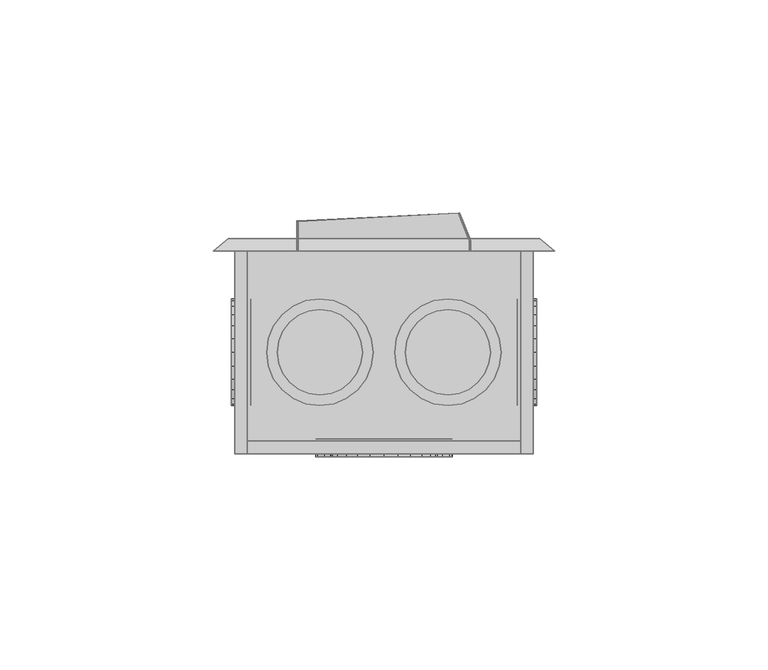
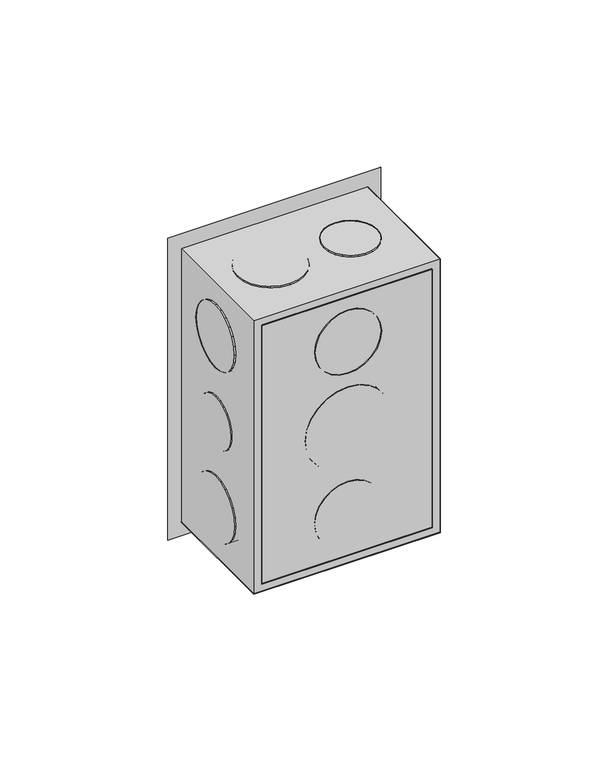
"""IFC4 building model written with IfcOpenShell, lengths in millimetres: proxy geometry,  210267 :  210267."""

from ifc_helpers import new_model, si_unit, origin, place, context, project, spatial, triangles, source, transform, mapped, element, save


def generic_models_a4ac1c25(model_context):
    return source(origin(), model_context, "Body", "Tessellation", [
        triangles([(5489.7497955, 15395.8997864, 1254.3000378), (5492.7501938, 15395.8997864, 1148.7000154), (5489.7497955, 15395.8997864, 1145.6999805), (5492.7501938, 15395.8997864, 1251.2999302), (5559.750174, 15395.8997864, 1254.3000378), (5556.7497757, 15395.8997864, 1251.2999302), (5559.750174, 15395.8997864, 1145.6999805), (5556.7497757, 15395.8997864, 1148.7000154), (5492.7501938, 15348.4003601, 1251.2999302), (5492.7501938, 15348.4003601, 1148.7000154), (5559.750174, 15348.4003601, 1254.3000378), (5559.750174, 15348.4003601, 1145.6999805), (5556.7497757, 15348.4003601, 1251.2999302), (5489.7497955, 15348.4003601, 1145.6999805), (5556.7497757, 15348.4003601, 1148.7000154), (5489.7497955, 15348.4003601, 1254.3000378), (5492.7501938, 15351.400177, 1251.2999302), (5556.7497757, 15351.400177, 1148.7000154), (5492.7501938, 15351.400177, 1148.7000154), (5556.7497757, 15351.400177, 1251.2999302), (5516.7498917, 15347.7004028, 1186.0999855), (5510.8502518, 15347.7004028, 1191.9999887), (5513.4500931, 15347.7004028, 1188.6999722), (5520.5502411, 15347.7004028, 1184.5000105), (5509.2497681, 15347.7004028, 1195.8999687), (5524.7499847, 15347.7004028, 1183.9999683), (5508.7497986, 15347.7004028, 1200.0000092), (5528.8497345, 15347.7004028, 1184.5000105), (5509.2497681, 15347.7004028, 1204.0999769), (5532.7500778, 15347.7004028, 1186.0999855), (5510.8502518, 15347.7004028, 1208.0000296), (5536.0498764, 15347.7004028, 1188.6999722), (5513.4500931, 15347.7004028, 1211.2999735), (5538.5497238, 15347.7004028, 1191.9999887), (5516.7498917, 15347.7004028, 1213.9000328), (5540.1502075, 15347.7004028, 1195.8999687), (5520.5502411, 15347.7004028, 1215.5000078), (5540.7501709, 15347.7004028, 1200.0000092), (5524.7499847, 15347.7004028, 1215.9999773), (5540.1502075, 15347.7004028, 1204.0999769), (5528.8497345, 15347.7004028, 1215.5000078), (5538.5497238, 15347.7004028, 1208.0000296), (5532.7500778, 15347.7004028, 1213.9000328), (5536.0498764, 15347.7004028, 1211.2999735), (5520.5502411, 15351.9001465, 1215.5000078), (5524.7499847, 15351.9001465, 1215.9999773), (5516.7498917, 15351.9001465, 1213.9000328), (5513.4500931, 15351.9001465, 1211.2999735), (5510.8502518, 15351.9001465, 1208.0000296), (5509.2497681, 15351.9001465, 1204.0999769), (5508.7497986, 15351.9001465, 1200.0000092), (5509.2497681, 15351.9001465, 1195.8999687), (5510.8502518, 15351.9001465, 1191.9999887), (5513.4500931, 15351.9001465, 1188.6999722), (5516.7498917, 15351.9001465, 1186.0999855), (5520.5502411, 15351.9001465, 1184.5000105), (5524.7499847, 15351.9001465, 1183.9999683), (5528.8497345, 15351.9001465, 1184.5000105), (5532.7500778, 15351.9001465, 1186.0999855), (5536.0498764, 15351.9001465, 1188.6999722), (5538.5497238, 15351.9001465, 1191.9999887), (5540.1502075, 15351.9001465, 1195.8999687), (5540.7501709, 15351.9001465, 1200.0000092), (5540.1502075, 15351.9001465, 1204.0999769), (5538.5497238, 15351.9001465, 1208.0000296), (5536.0498764, 15351.9001465, 1211.2999735), (5532.7500778, 15351.9001465, 1213.9000328), (5528.8497345, 15351.9001465, 1215.5000078), (5513.8500687, 15351.9001465, 1227.8000565), (5518.4497879, 15351.9001465, 1223.2000465), (5515.8499466, 15351.9001465, 1225.2000698), (5512.6501419, 15351.9001465, 1230.8000187), (5521.4501862, 15351.9001465, 1221.8999805), (5512.2501663, 15351.9001465, 1233.9999687), (5524.7499847, 15351.9001465, 1221.500005), (5512.6501419, 15351.9001465, 1237.2000641), (5527.9497894, 15351.9001465, 1221.8999805), (5513.8500687, 15351.9001465, 1240.3000202), (5530.9501877, 15351.9001465, 1223.2000465), (5515.8499466, 15351.9001465, 1242.800013), (5533.550029, 15351.9001465, 1225.2000698), (5535.5499069, 15351.9001465, 1227.8000565), (5518.4497879, 15351.9001465, 1244.8000362), (5521.4501862, 15351.9001465, 1246.0999569), (5536.7498337, 15351.9001465, 1230.8000187), (5524.7499847, 15351.9001465, 1246.4999325), (5537.2498032, 15351.9001465, 1233.9999687), (5527.9497894, 15351.9001465, 1246.0999569), (5536.7498337, 15351.9001465, 1237.2000641), (5535.5499069, 15351.9001465, 1240.3000202), (5530.9501877, 15351.9001465, 1244.8000362), (5533.550029, 15351.9001465, 1242.800013), (5536.7498337, 15347.7004028, 1230.8000187), (5535.5499069, 15347.7004028, 1227.8000565), (5533.550029, 15347.7004028, 1225.2000698), (5530.9501877, 15347.7004028, 1223.2000465), (5527.9497894, 15347.7004028, 1221.8999805), (5524.7499847, 15347.7004028, 1221.500005), (5521.4501862, 15347.7004028, 1221.8999805), (5518.4497879, 15347.7004028, 1223.2000465), (5515.8499466, 15347.7004028, 1225.2000698), (5513.8500687, 15347.7004028, 1227.8000565), (5512.6501419, 15347.7004028, 1230.8000187), (5512.2501663, 15347.7004028, 1233.9999687), (5512.6501419, 15347.7004028, 1237.2000641), (5513.8500687, 15347.7004028, 1240.3000202), (5515.8499466, 15347.7004028, 1242.800013), (5518.4497879, 15347.7004028, 1244.8000362), (5521.4501862, 15347.7004028, 1246.0999569), (5524.7499847, 15347.7004028, 1246.4999325), (5527.9497894, 15347.7004028, 1246.0999569), (5530.9501877, 15347.7004028, 1244.8000362), (5533.550029, 15347.7004028, 1242.800013), (5535.5499069, 15347.7004028, 1240.3000202), (5536.7498337, 15347.7004028, 1237.2000641), (5537.2498032, 15347.7004028, 1233.9999687), (5518.4497879, 15347.7004028, 1155.1999821), (5513.8500687, 15347.7004028, 1159.6999981), (5515.8499466, 15347.7004028, 1157.2000053), (5521.4501862, 15347.7004028, 1153.8999887), (5512.6501419, 15347.7004028, 1162.8000269), (5524.7499847, 15347.7004028, 1153.5000132), (5512.2501663, 15347.7004028, 1165.9999769), (5527.9497894, 15347.7004028, 1153.8999887), (5512.6501419, 15347.7004028, 1169.1999996), (5530.9501877, 15347.7004028, 1155.1999821), (5513.8500687, 15347.7004028, 1172.2000345), (5533.550029, 15347.7004028, 1157.2000053), (5515.8499466, 15347.7004028, 1174.8000212), (5535.5499069, 15347.7004028, 1159.6999981), (5518.4497879, 15347.7004028, 1176.7999718), (5536.7498337, 15347.7004028, 1162.8000269), (5521.4501862, 15347.7004028, 1178.0999651), (5524.7499847, 15347.7004028, 1178.5000134), (5537.2498032, 15347.7004028, 1165.9999769), (5536.7498337, 15347.7004028, 1169.1999996), (5527.9497894, 15347.7004028, 1178.0999651), (5535.5499069, 15347.7004028, 1172.2000345), (5530.9501877, 15347.7004028, 1176.7999718), (5533.550029, 15347.7004028, 1174.8000212), (5521.4501862, 15351.9001465, 1178.0999651), (5524.7499847, 15351.9001465, 1178.5000134), (5518.4497879, 15351.9001465, 1176.7999718), (5515.8499466, 15351.9001465, 1174.8000212), (5513.8500687, 15351.9001465, 1172.2000345), (5512.6501419, 15351.9001465, 1169.1999996), (5512.2501663, 15351.9001465, 1165.9999769), (5512.6501419, 15351.9001465, 1162.8000269), (5513.8500687, 15351.9001465, 1159.6999981), (5515.8499466, 15351.9001465, 1157.2000053), (5518.4497879, 15351.9001465, 1155.1999821), (5521.4501862, 15351.9001465, 1153.8999887), (5524.7499847, 15351.9001465, 1153.5000132), (5527.9497894, 15351.9001465, 1153.8999887), (5530.9501877, 15351.9001465, 1155.1999821), (5533.550029, 15351.9001465, 1157.2000053), (5535.5499069, 15351.9001465, 1159.6999981), (5536.7498337, 15351.9001465, 1162.8000269), (5537.2498032, 15351.9001465, 1165.9999769), (5536.7498337, 15351.9001465, 1169.1999996), (5535.5499069, 15351.9001465, 1172.2000345), (5533.550029, 15351.9001465, 1174.8000212), (5530.9501877, 15351.9001465, 1176.7999718), (5527.9497894, 15351.9001465, 1178.0999651), (5488.9498444, 15363.4994385, 1195.0000237), (5488.9498444, 15367.2003754, 1191.3000315), (5488.9498444, 15365.1005035, 1192.9000065), (5488.9498444, 15362.4994995, 1197.4000225), (5488.9498444, 15369.6002289, 1190.3000198), (5488.9498444, 15362.1995178, 1200.0000092), (5488.9498444, 15372.2000702, 1189.9999655), (5488.9498444, 15362.4994995, 1202.5999958), (5488.9498444, 15374.7999115, 1190.3000198), (5488.9498444, 15363.4994385, 1204.9999947), (5488.9498444, 15377.199765, 1191.3000315), (5488.9498444, 15365.1005035, 1207.1000118), (5488.9498444, 15379.2996368, 1192.9000065), (5488.9498444, 15367.2003754, 1208.6999868), (5488.9498444, 15380.8995392, 1195.0000237), (5488.9498444, 15369.6002289, 1209.6999985), (5488.9498444, 15381.8994781, 1197.4000225), (5488.9498444, 15382.1994598, 1200.0000092), (5488.9498444, 15372.2000702, 1209.9999802), (5488.9498444, 15374.7999115, 1209.6999985), (5488.9498444, 15381.8994781, 1202.5999958), (5488.9498444, 15377.199765, 1208.6999868), (5488.9498444, 15380.8995392, 1204.9999947), (5488.9498444, 15379.2996368, 1207.1000118), (5493.550145, 15369.6002289, 1209.6999985), (5493.550145, 15372.2000702, 1209.9999802), (5493.550145, 15374.7999115, 1209.6999985), (5493.550145, 15377.199765, 1208.6999868), (5493.550145, 15379.2996368, 1207.1000118), (5493.550145, 15380.8995392, 1204.9999947), (5493.550145, 15381.8994781, 1202.5999958), (5493.550145, 15382.1994598, 1200.0000092), (5493.550145, 15381.8994781, 1197.4000225), (5493.550145, 15380.8995392, 1195.0000237), (5493.550145, 15379.2996368, 1192.9000065), (5493.550145, 15377.199765, 1191.3000315), (5493.550145, 15374.7999115, 1190.3000198), (5493.550145, 15372.2000702, 1189.9999655), (5493.550145, 15369.6002289, 1190.3000198), (5493.550145, 15367.2003754, 1191.3000315), (5493.550145, 15365.1005035, 1192.9000065), (5493.550145, 15363.4994385, 1195.0000237), (5493.550145, 15362.4994995, 1197.4000225), (5493.550145, 15362.1995178, 1200.0000092), (5493.550145, 15362.4994995, 1202.5999958), (5493.550145, 15363.4994385, 1204.9999947), (5493.550145, 15365.1005035, 1207.1000118), (5493.550145, 15367.2003754, 1208.6999868), (5493.550145, 15365.9004547, 1223.2000465), (5493.550145, 15361.3995667, 1227.8000565), (5493.550145, 15363.3994446, 1225.2000698), (5493.550145, 15369.0002655, 1221.8999805), (5493.550145, 15360.099646, 1230.8000187), (5493.550145, 15359.6996704, 1233.9999687), (5493.550145, 15372.2000702, 1221.500005), (5493.550145, 15375.3998749, 1221.8999805), (5493.550145, 15360.099646, 1237.2000641), (5493.550145, 15361.3995667, 1240.3000202), (5493.550145, 15378.3996918, 1223.2000465), (5493.550145, 15380.9995331, 1225.2000698), (5493.550145, 15363.3994446, 1242.800013), (5493.550145, 15383.0005737, 1227.8000565), (5493.550145, 15365.9004547, 1244.8000362), (5493.550145, 15384.3004944, 1230.8000187), (5493.550145, 15369.0002655, 1246.0999569), (5493.550145, 15384.70047, 1233.9999687), (5493.550145, 15372.2000702, 1246.4999325), (5493.550145, 15384.3004944, 1237.2000641), (5493.550145, 15375.3998749, 1246.0999569), (5493.550145, 15383.0005737, 1240.3000202), (5493.550145, 15378.3996918, 1244.8000362), (5493.550145, 15380.9995331, 1242.800013), (5488.9498444, 15372.2000702, 1221.500005), (5488.9498444, 15369.0002655, 1221.8999805), (5488.9498444, 15375.3998749, 1221.8999805), (5488.9498444, 15378.3996918, 1223.2000465), (5488.9498444, 15380.9995331, 1225.2000698), (5488.9498444, 15383.0005737, 1227.8000565), (5488.9498444, 15384.3004944, 1230.8000187), (5488.9498444, 15384.70047, 1233.9999687), (5488.9498444, 15384.3004944, 1237.2000641), (5488.9498444, 15383.0005737, 1240.3000202), (5488.9498444, 15380.9995331, 1242.800013), (5488.9498444, 15378.3996918, 1244.8000362), (5488.9498444, 15375.3998749, 1246.0999569), (5488.9498444, 15372.2000702, 1246.4999325), (5488.9498444, 15369.0002655, 1246.0999569), (5488.9498444, 15365.9004547, 1244.8000362), (5488.9498444, 15363.3994446, 1242.800013), (5488.9498444, 15361.3995667, 1240.3000202), (5488.9498444, 15360.099646, 1237.2000641), (5488.9498444, 15359.6996704, 1233.9999687), (5488.9498444, 15360.099646, 1230.8000187), (5488.9498444, 15361.3995667, 1227.8000565), (5488.9498444, 15363.3994446, 1225.2000698), (5488.9498444, 15365.9004547, 1223.2000465), (5488.9498444, 15361.3995667, 1159.6999981), (5488.9498444, 15365.9004547, 1155.1999821), (5488.9498444, 15363.3994446, 1157.2000053), (5488.9498444, 15360.099646, 1162.8000269), (5488.9498444, 15369.0002655, 1153.8999887), (5488.9498444, 15359.6996704, 1165.9999769), (5488.9498444, 15372.2000702, 1153.5000132), (5488.9498444, 15360.099646, 1169.1999996), (5488.9498444, 15375.3998749, 1153.8999887), (5488.9498444, 15361.3995667, 1172.2000345), (5488.9498444, 15378.3996918, 1155.1999821), (5488.9498444, 15363.3994446, 1174.8000212), (5488.9498444, 15380.9995331, 1157.2000053), (5488.9498444, 15365.9004547, 1176.7999718), (5488.9498444, 15383.0005737, 1159.6999981), (5488.9498444, 15369.0002655, 1178.0999651), (5488.9498444, 15384.3004944, 1162.8000269), (5488.9498444, 15372.2000702, 1178.5000134), (5488.9498444, 15384.70047, 1165.9999769), (5488.9498444, 15375.3998749, 1178.0999651), (5488.9498444, 15384.3004944, 1169.1999996), (5488.9498444, 15378.3996918, 1176.7999718), (5488.9498444, 15383.0005737, 1172.2000345), (5488.9498444, 15380.9995331, 1174.8000212), (5493.550145, 15369.0002655, 1178.0999651), (5493.550145, 15372.2000702, 1178.5000134), (5493.550145, 15375.3998749, 1178.0999651), (5493.550145, 15378.3996918, 1176.7999718), (5493.550145, 15380.9995331, 1174.8000212), (5493.550145, 15383.0005737, 1172.2000345), (5493.550145, 15384.3004944, 1169.1999996), (5493.550145, 15384.70047, 1165.9999769), (5493.550145, 15384.3004944, 1162.8000269), (5493.550145, 15383.0005737, 1159.6999981), (5493.550145, 15380.9995331, 1157.2000053), (5493.550145, 15378.3996918, 1155.1999821), (5493.550145, 15375.3998749, 1153.8999887), (5493.550145, 15372.2000702, 1153.5000132), (5493.550145, 15369.0002655, 1153.8999887), (5493.550145, 15365.9004547, 1155.1999821), (5493.550145, 15363.3994446, 1157.2000053), (5493.550145, 15361.3995667, 1159.6999981), (5493.550145, 15360.099646, 1162.8000269), (5493.550145, 15359.6996704, 1165.9999769), (5493.550145, 15360.099646, 1169.1999996), (5493.550145, 15361.3995667, 1172.2000345), (5493.550145, 15363.3994446, 1174.8000212), (5493.550145, 15365.9004547, 1176.7999718), (5560.5501251, 15367.2003754, 1191.3000315), (5560.5501251, 15363.4994385, 1195.0000237), (5560.5501251, 15365.1005035, 1192.9000065), (5560.5501251, 15362.4994995, 1197.4000225), (5560.5501251, 15369.6002289, 1190.3000198), (5560.5501251, 15362.1995178, 1200.0000092), (5560.5501251, 15372.2000702, 1189.9999655), (5560.5501251, 15374.7999115, 1190.3000198), (5560.5501251, 15362.4994995, 1202.5999958), (5560.5501251, 15363.4994385, 1204.9999947), (5560.5501251, 15377.199765, 1191.3000315), (5560.5501251, 15365.1005035, 1207.1000118), (5560.5501251, 15379.2996368, 1192.9000065), (5560.5501251, 15380.8995392, 1195.0000237), (5560.5501251, 15367.2003754, 1208.6999868), (5560.5501251, 15381.8994781, 1197.4000225), (5560.5501251, 15369.6002289, 1209.6999985), (5560.5501251, 15382.1994598, 1200.0000092), (5560.5501251, 15372.2000702, 1209.9999802), (5560.5501251, 15381.8994781, 1202.5999958), (5560.5501251, 15374.7999115, 1209.6999985), (5560.5501251, 15377.199765, 1208.6999868), (5560.5501251, 15380.8995392, 1204.9999947), (5560.5501251, 15379.2996368, 1207.1000118), (5555.9498245, 15369.6002289, 1190.3000198), (5555.9498245, 15367.2003754, 1191.3000315), (5555.9498245, 15372.2000702, 1189.9999655), (5555.9498245, 15374.7999115, 1190.3000198), (5555.9498245, 15377.199765, 1191.3000315), (5555.9498245, 15379.2996368, 1192.9000065), (5555.9498245, 15380.8995392, 1195.0000237), (5555.9498245, 15381.8994781, 1197.4000225), (5555.9498245, 15382.1994598, 1200.0000092), (5555.9498245, 15381.8994781, 1202.5999958), (5555.9498245, 15380.8995392, 1204.9999947), (5555.9498245, 15379.2996368, 1207.1000118), (5555.9498245, 15377.199765, 1208.6999868), (5555.9498245, 15374.7999115, 1209.6999985), (5555.9498245, 15372.2000702, 1209.9999802), (5555.9498245, 15369.6002289, 1209.6999985), (5555.9498245, 15367.2003754, 1208.6999868), (5555.9498245, 15365.1005035, 1207.1000118), (5555.9498245, 15363.4994385, 1204.9999947), (5555.9498245, 15362.4994995, 1202.5999958), (5555.9498245, 15362.1995178, 1200.0000092), (5555.9498245, 15362.4994995, 1197.4000225), (5555.9498245, 15363.4994385, 1195.0000237), (5555.9498245, 15365.1005035, 1192.9000065), (5555.9498245, 15361.3995667, 1159.6999981), (5555.9498245, 15365.9004547, 1155.1999821), (5555.9498245, 15363.3994446, 1157.2000053), (5555.9498245, 15360.099646, 1162.8000269), (5555.9498245, 15369.0002655, 1153.8999887), (5555.9498245, 15359.6996704, 1165.9999769), (5555.9498245, 15372.2000702, 1153.5000132), (5555.9498245, 15360.099646, 1169.1999996), (5555.9498245, 15375.3998749, 1153.8999887), (5555.9498245, 15361.3995667, 1172.2000345), (5555.9498245, 15378.3996918, 1155.1999821), (5555.9498245, 15363.3994446, 1174.8000212), (5555.9498245, 15380.9995331, 1157.2000053), (5555.9498245, 15365.9004547, 1176.7999718), (5555.9498245, 15383.0005737, 1159.6999981), (5555.9498245, 15369.0002655, 1178.0999651), (5555.9498245, 15384.3004944, 1162.8000269), (5555.9498245, 15372.2000702, 1178.5000134), (5555.9498245, 15384.70047, 1165.9999769), (5555.9498245, 15375.3998749, 1178.0999651), (5555.9498245, 15384.3004944, 1169.1999996), (5555.9498245, 15378.3996918, 1176.7999718), (5555.9498245, 15383.0005737, 1172.2000345), (5555.9498245, 15380.9995331, 1174.8000212), (5560.5501251, 15369.0002655, 1178.0999651), (5560.5501251, 15372.2000702, 1178.5000134), (5560.5501251, 15375.3998749, 1178.0999651), (5560.5501251, 15378.3996918, 1176.7999718), (5560.5501251, 15380.9995331, 1174.8000212), (5560.5501251, 15383.0005737, 1172.2000345), (5560.5501251, 15384.3004944, 1169.1999996), (5560.5501251, 15384.70047, 1165.9999769), (5560.5501251, 15384.3004944, 1162.8000269), (5560.5501251, 15383.0005737, 1159.6999981), (5560.5501251, 15380.9995331, 1157.2000053), (5560.5501251, 15378.3996918, 1155.1999821), (5560.5501251, 15375.3998749, 1153.8999887), (5560.5501251, 15372.2000702, 1153.5000132), (5560.5501251, 15369.0002655, 1153.8999887), (5560.5501251, 15365.9004547, 1155.1999821), (5560.5501251, 15363.3994446, 1157.2000053), (5560.5501251, 15361.3995667, 1159.6999981), (5560.5501251, 15360.099646, 1162.8000269), (5560.5501251, 15359.6996704, 1165.9999769), (5560.5501251, 15360.099646, 1169.1999996), (5560.5501251, 15361.3995667, 1172.2000345), (5560.5501251, 15363.3994446, 1174.8000212), (5560.5501251, 15365.9004547, 1176.7999718), (5560.5501251, 15365.9004547, 1223.2000465), (5560.5501251, 15361.3995667, 1227.8000565), (5560.5501251, 15363.3994446, 1225.2000698), (5560.5501251, 15369.0002655, 1221.8999805), (5560.5501251, 15360.099646, 1230.8000187), (5560.5501251, 15359.6996704, 1233.9999687), (5560.5501251, 15372.2000702, 1221.500005), (5560.5501251, 15375.3998749, 1221.8999805), (5560.5501251, 15360.099646, 1237.2000641), (5560.5501251, 15361.3995667, 1240.3000202), (5560.5501251, 15378.3996918, 1223.2000465), (5560.5501251, 15380.9995331, 1225.2000698), (5560.5501251, 15363.3994446, 1242.800013), (5560.5501251, 15383.0005737, 1227.8000565), (5560.5501251, 15365.9004547, 1244.8000362), (5560.5501251, 15384.3004944, 1230.8000187), (5560.5501251, 15369.0002655, 1246.0999569), (5560.5501251, 15384.70047, 1233.9999687), (5560.5501251, 15372.2000702, 1246.4999325), (5560.5501251, 15384.3004944, 1237.2000641), (5560.5501251, 15375.3998749, 1246.0999569), (5560.5501251, 15383.0005737, 1240.3000202), (5560.5501251, 15378.3996918, 1244.8000362), (5560.5501251, 15380.9995331, 1242.800013), (5555.9498245, 15372.2000702, 1221.500005), (5555.9498245, 15369.0002655, 1221.8999805), (5555.9498245, 15375.3998749, 1221.8999805), (5555.9498245, 15378.3996918, 1223.2000465), (5555.9498245, 15380.9995331, 1225.2000698), (5555.9498245, 15383.0005737, 1227.8000565), (5555.9498245, 15384.3004944, 1230.8000187), (5555.9498245, 15384.70047, 1233.9999687), (5555.9498245, 15384.3004944, 1237.2000641), (5555.9498245, 15383.0005737, 1240.3000202), (5555.9498245, 15380.9995331, 1242.800013), (5555.9498245, 15378.3996918, 1244.8000362), (5555.9498245, 15375.3998749, 1246.0999569), (5555.9498245, 15372.2000702, 1246.4999325), (5555.9498245, 15369.0002655, 1246.0999569), (5555.9498245, 15365.9004547, 1244.8000362), (5555.9498245, 15363.3994446, 1242.800013), (5555.9498245, 15361.3995667, 1240.3000202), (5555.9498245, 15360.099646, 1237.2000641), (5555.9498245, 15359.6996704, 1233.9999687), (5555.9498245, 15360.099646, 1230.8000187), (5555.9498245, 15361.3995667, 1227.8000565), (5555.9498245, 15363.3994446, 1225.2000698), (5555.9498245, 15365.9004547, 1223.2000465), (5503.4501221, 15361.3995667, 1255.1999828), (5498.8498215, 15365.9004547, 1255.1999828), (5500.8502808, 15363.3994446, 1255.1999828), (5497.6498947, 15369.0002655, 1255.1999828), (5506.449939, 15360.099646, 1255.1999828), (5509.7497375, 15359.6996704, 1255.1999828), (5497.2499191, 15372.2000702, 1255.1999828), (5497.6498947, 15375.3998749, 1255.1999828), (5512.9501236, 15360.099646, 1255.1999828), (5515.9499405, 15361.3995667, 1255.1999828), (5498.8498215, 15378.3996918, 1255.1999828), (5500.8502808, 15380.9995331, 1255.1999828), (5518.5497818, 15363.3994446, 1255.1999828), (5520.5502411, 15365.9004547, 1255.1999828), (5503.4501221, 15383.0005737, 1255.1999828), (5506.449939, 15384.3004944, 1255.1999828), (5521.7501678, 15369.0002655, 1255.1999828), (5509.7497375, 15384.70047, 1255.1999828), (5522.2501373, 15372.2000702, 1255.1999828), (5512.9501236, 15384.3004944, 1255.1999828), (5521.7501678, 15375.3998749, 1255.1999828), (5520.5502411, 15378.3996918, 1255.1999828), (5515.9499405, 15383.0005737, 1255.1999828), (5518.5497818, 15380.9995331, 1255.1999828), (5509.7497375, 15384.70047, 1250.9999485), (5506.449939, 15384.3004944, 1250.9999485), (5503.4501221, 15383.0005737, 1250.9999485), (5500.8502808, 15380.9995331, 1250.9999485), (5498.8498215, 15378.3996918, 1250.9999485), (5497.6498947, 15375.3998749, 1250.9999485), (5497.2499191, 15372.2000702, 1250.9999485), (5497.6498947, 15369.0002655, 1250.9999485), (5498.8498215, 15365.9004547, 1250.9999485), (5500.8502808, 15363.3994446, 1250.9999485), (5503.4501221, 15361.3995667, 1250.9999485), (5506.449939, 15360.099646, 1250.9999485), (5509.7497375, 15359.6996704, 1250.9999485), (5512.9501236, 15360.099646, 1250.9999485), (5515.9499405, 15361.3995667, 1250.9999485), (5518.5497818, 15363.3994446, 1250.9999485), (5520.5502411, 15365.9004547, 1250.9999485), (5521.7501678, 15369.0002655, 1250.9999485), (5522.2501373, 15372.2000702, 1250.9999485), (5521.7501678, 15375.3998749, 1250.9999485), (5520.5502411, 15378.3996918, 1250.9999485), (5518.5497818, 15380.9995331, 1250.9999485), (5515.9499405, 15383.0005737, 1250.9999485), (5512.9501236, 15384.3004944, 1250.9999485), (5531.0501816, 15367.2003754, 1250.9999485), (5534.7499557, 15363.4994385, 1250.9999485), (5532.6500839, 15365.1005035, 1250.9999485), (5537.1498093, 15362.4994995, 1250.9999485), (5530.0502426, 15369.6002289, 1250.9999485), (5539.7502319, 15362.1995178, 1250.9999485), (5529.7502609, 15372.2000702, 1250.9999485), (5530.0502426, 15374.7999115, 1250.9999485), (5542.3500732, 15362.4994995, 1250.9999485), (5544.7499268, 15363.4994385, 1250.9999485), (5531.0501816, 15377.199765, 1250.9999485), (5546.7498047, 15365.1005035, 1250.9999485), (5532.6500839, 15379.2996368, 1250.9999485), (5534.7499557, 15380.8995392, 1250.9999485), (5548.3502884, 15367.2003754, 1250.9999485), (5549.3502274, 15369.6002289, 1250.9999485), (5537.1498093, 15381.8994781, 1250.9999485), (5539.7502319, 15382.1994598, 1250.9999485), (5549.7502029, 15372.2000702, 1250.9999485), (5542.3500732, 15381.8994781, 1250.9999485), (5549.3502274, 15374.7999115, 1250.9999485), (5544.7499268, 15380.8995392, 1250.9999485), (5548.3502884, 15377.199765, 1250.9999485), (5546.7498047, 15379.2996368, 1250.9999485), (5542.3500732, 15362.4994995, 1255.1999828), (5544.7499268, 15363.4994385, 1255.1999828), (5539.7502319, 15362.1995178, 1255.1999828), (5537.1498093, 15362.4994995, 1255.1999828), (5534.7499557, 15363.4994385, 1255.1999828), (5532.6500839, 15365.1005035, 1255.1999828), (5531.0501816, 15367.2003754, 1255.1999828), (5530.0502426, 15369.6002289, 1255.1999828), (5529.7502609, 15372.2000702, 1255.1999828), (5530.0502426, 15374.7999115, 1255.1999828), (5531.0501816, 15377.199765, 1255.1999828), (5532.6500839, 15379.2996368, 1255.1999828), (5534.7499557, 15380.8995392, 1255.1999828), (5537.1498093, 15381.8994781, 1255.1999828), (5539.7502319, 15382.1994598, 1255.1999828), (5542.3500732, 15381.8994781, 1255.1999828), (5544.7499268, 15380.8995392, 1255.1999828), (5546.7498047, 15379.2996368, 1255.1999828), (5548.3502884, 15377.199765, 1255.1999828), (5549.3502274, 15374.7999115, 1255.1999828), (5549.7502029, 15372.2000702, 1255.1999828), (5549.3502274, 15369.6002289, 1255.1999828), (5548.3502884, 15367.2003754, 1255.1999828), (5546.7498047, 15365.1005035, 1255.1999828), (5501.0502686, 15367.2003754, 1144.8000355), (5504.7500427, 15363.4994385, 1144.8000355), (5502.6501709, 15365.1005035, 1144.8000355), (5507.1498962, 15362.4994995, 1144.8000355), (5500.0497482, 15369.6002289, 1144.8000355), (5509.7497375, 15362.1995178, 1144.8000355), (5499.7497665, 15372.2000702, 1144.8000355), (5500.0497482, 15374.7999115, 1144.8000355), (5512.3501602, 15362.4994995, 1144.8000355), (5514.7500137, 15363.4994385, 1144.8000355), (5501.0502686, 15377.199765, 1144.8000355), (5516.7498917, 15365.1005035, 1144.8000355), (5502.6501709, 15379.2996368, 1144.8000355), (5504.7500427, 15380.8995392, 1144.8000355), (5518.349794, 15367.2003754, 1144.8000355), (5519.349733, 15369.6002289, 1144.8000355), (5507.1498962, 15381.8994781, 1144.8000355), (5509.7497375, 15382.1994598, 1144.8000355), (5519.7502899, 15372.2000702, 1144.8000355), (5512.3501602, 15381.8994781, 1144.8000355), (5519.349733, 15374.7999115, 1144.8000355), (5514.7500137, 15380.8995392, 1144.8000355), (5518.349794, 15377.199765, 1144.8000355), (5516.7498917, 15379.2996368, 1144.8000355), (5507.1498962, 15362.4994995, 1149.099991), (5509.7497375, 15362.1995178, 1149.099991), (5504.7500427, 15363.4994385, 1149.099991), (5502.6501709, 15365.1005035, 1149.099991), (5501.0502686, 15367.2003754, 1149.099991), (5500.0497482, 15369.6002289, 1149.099991), (5499.7497665, 15372.2000702, 1149.099991), (5500.0497482, 15374.7999115, 1149.099991), (5501.0502686, 15377.199765, 1149.099991), (5502.6501709, 15379.2996368, 1149.099991), (5504.7500427, 15380.8995392, 1149.099991), (5507.1498962, 15381.8994781, 1149.099991), (5509.7497375, 15382.1994598, 1149.099991), (5512.3501602, 15381.8994781, 1149.099991), (5514.7500137, 15380.8995392, 1149.099991), (5516.7498917, 15379.2996368, 1149.099991), (5518.349794, 15377.199765, 1149.099991), (5519.349733, 15374.7999115, 1149.099991), (5519.7502899, 15372.2000702, 1149.099991), (5519.349733, 15369.6002289, 1149.099991), (5518.349794, 15367.2003754, 1149.099991), (5516.7498917, 15365.1005035, 1149.099991), (5514.7500137, 15363.4994385, 1149.099991), (5512.3501602, 15362.4994995, 1149.099991), (5528.8497345, 15365.9004547, 1144.8000355), (5533.4500351, 15361.3995667, 1144.8000355), (5530.8501938, 15363.3994446, 1144.8000355), (5527.6498077, 15369.0002655, 1144.8000355), (5536.449852, 15360.099646, 1144.8000355), (5539.7502319, 15359.6996704, 1144.8000355), (5527.2498322, 15372.2000702, 1144.8000355), (5527.6498077, 15375.3998749, 1144.8000355), (5542.9500366, 15360.099646, 1144.8000355), (5545.9498535, 15361.3995667, 1144.8000355), (5528.8497345, 15378.3996918, 1144.8000355), (5530.8501938, 15380.9995331, 1144.8000355), (5548.5502762, 15363.3994446, 1144.8000355), (5550.5501541, 15365.9004547, 1144.8000355), (5533.4500351, 15383.0005737, 1144.8000355), (5536.449852, 15384.3004944, 1144.8000355), (5551.7500809, 15369.0002655, 1144.8000355), (5539.7502319, 15384.70047, 1144.8000355), (5552.2500504, 15372.2000702, 1144.8000355), (5542.9500366, 15384.3004944, 1144.8000355), (5551.7500809, 15375.3998749, 1144.8000355), (5550.5501541, 15378.3996918, 1144.8000355), (5545.9498535, 15383.0005737, 1144.8000355), (5548.5502762, 15380.9995331, 1144.8000355), (5542.9500366, 15360.099646, 1149.099991), (5545.9498535, 15361.3995667, 1149.099991), (5539.7502319, 15359.6996704, 1149.099991), (5536.449852, 15360.099646, 1149.099991), (5533.4500351, 15361.3995667, 1149.099991), (5530.8501938, 15363.3994446, 1149.099991), (5528.8497345, 15365.9004547, 1149.099991), (5527.6498077, 15369.0002655, 1149.099991), (5527.2498322, 15372.2000702, 1149.099991), (5527.6498077, 15375.3998749, 1149.099991), (5528.8497345, 15378.3996918, 1149.099991), (5530.8501938, 15380.9995331, 1149.099991), (5533.4500351, 15383.0005737, 1149.099991), (5536.449852, 15384.3004944, 1149.099991), (5539.7502319, 15384.70047, 1149.099991), (5542.9500366, 15384.3004944, 1149.099991), (5545.9498535, 15383.0005737, 1149.099991), (5548.5502762, 15380.9995331, 1149.099991), (5550.5501541, 15378.3996918, 1149.099991), (5551.7500809, 15375.3998749, 1149.099991), (5552.2500504, 15372.2000702, 1149.099991), (5551.7500809, 15369.0002655, 1149.099991), (5550.5501541, 15365.9004547, 1149.099991), (5548.5502762, 15363.3994446, 1149.099991), (5564.7498688, 15395.8997864, 1139.9999651), (5504.5500549, 15395.8997864, 1164.5999897), (5484.7501007, 15395.8997864, 1139.9999651), (5544.9499146, 15395.8997864, 1164.5999897), (5564.7498688, 15395.8997864, 1259.9999805), (5544.9499146, 15395.8997864, 1188.0000149), (5544.9499146, 15395.8997864, 1211.3999674), (5544.9499146, 15395.8997864, 1234.8000652), (5484.7501007, 15395.8997864, 1259.9999805), (5504.5500549, 15395.8997864, 1188.0000149), (5504.5500549, 15395.8997864, 1211.3999674), (5504.5500549, 15395.8997864, 1234.8000652), (5504.5500549, 15398.8996033, 1188.0000149), (5544.9499146, 15398.8996033, 1188.0000149), (5504.5500549, 15398.8996033, 1234.8000652), (5544.9499146, 15398.8996033, 1234.8000652), (5544.9499146, 15398.8996033, 1164.5999897), (5544.9499146, 15398.8996033, 1211.3999674), (5504.5500549, 15398.8996033, 1164.5999897), (5504.5500549, 15398.8996033, 1211.3999674), (5488.2498871, 15398.8996033, 1143.4999695), (5488.2498871, 15398.8996033, 1256.5000488), (5561.2500824, 15398.8996033, 1143.4999695), (5561.2500824, 15398.8996033, 1256.5000488), (5504.6500488, 15402.9005219, 1211.2999735), (5545.0499084, 15395.8997864, 1211.2999735), (5504.6500488, 15395.8997864, 1211.2999735), (5542.4500671, 15404.8004059, 1211.2999735), (5545.0499084, 15398.3996338, 1211.2999735), (5504.6500488, 15395.8997864, 1234.7000713), (5545.0499084, 15395.8997864, 1234.7000713), (5504.6500488, 15402.9005219, 1234.7000713), (5542.4500671, 15404.8004059, 1234.7000713), (5545.0499084, 15398.3996338, 1234.7000713), (5504.3500671, 15402.9005219, 1164.6999836), (5544.7499268, 15395.8997864, 1164.6999836), (5504.3500671, 15395.8997864, 1164.6999836), (5542.1500854, 15404.8004059, 1164.6999836), (5544.7499268, 15398.3996338, 1164.6999836), (5504.3500671, 15395.8997864, 1188.1000088), (5544.7499268, 15395.8997864, 1188.1000088), (5504.3500671, 15402.9005219, 1188.1000088), (5542.1500854, 15404.8004059, 1188.1000088), (5544.7499268, 15398.3996338, 1188.1000088)], [[1, 2, 3], [2, 1, 4], [5, 4, 1], [4, 5, 6], [3, 2, 7], [7, 2, 8], [7, 8, 6], [7, 6, 5], [2, 9, 10], [9, 2, 4], [7, 11, 12], [11, 7, 5], [4, 13, 9], [13, 4, 6], [3, 12, 14], [12, 3, 7], [13, 8, 15], [8, 13, 6], [16, 3, 14], [3, 16, 1], [15, 2, 10], [2, 15, 8], [11, 1, 16], [1, 11, 5], [12, 10, 14], [10, 12, 15], [11, 15, 12], [15, 11, 13], [14, 10, 16], [16, 10, 9], [16, 9, 13], [16, 13, 11], [17, 18, 19], [18, 17, 20], [18, 13, 15], [13, 18, 20], [19, 15, 10], [15, 19, 18], [9, 19, 10], [19, 9, 17], [13, 17, 9], [17, 13, 20], [15, 9, 10], [9, 15, 13], [21, 22, 23], [22, 21, 24], [25, 22, 24], [25, 24, 26], [27, 25, 26], [27, 26, 28], [29, 27, 28], [29, 28, 30], [31, 29, 30], [31, 30, 32], [31, 32, 33], [33, 32, 34], [33, 34, 35], [35, 34, 36], [35, 36, 37], [37, 36, 38], [37, 38, 39], [39, 38, 40], [39, 40, 41], [41, 40, 42], [41, 42, 43], [43, 42, 44], [39, 45, 37], [45, 39, 46], [37, 47, 35], [47, 37, 45], [35, 48, 33], [48, 35, 47], [33, 49, 31], [49, 33, 48], [31, 50, 29], [50, 31, 49], [29, 51, 27], [51, 29, 50], [27, 52, 25], [52, 27, 51], [25, 53, 22], [53, 25, 52], [22, 54, 23], [54, 22, 53], [54, 21, 23], [21, 54, 55], [55, 24, 21], [24, 55, 56], [56, 26, 24], [26, 56, 57], [57, 28, 26], [28, 57, 58], [58, 30, 28], [30, 58, 59], [59, 32, 30], [32, 59, 60], [60, 34, 32], [34, 60, 61], [61, 36, 34], [36, 61, 62], [62, 38, 36], [38, 62, 63], [63, 40, 38], [40, 63, 64], [64, 42, 40], [42, 64, 65], [65, 44, 42], [44, 65, 66], [44, 67, 43], [67, 44, 66], [43, 68, 41], [68, 43, 67], [41, 46, 39], [46, 41, 68], [53, 55, 54], [55, 53, 52], [56, 55, 52], [56, 52, 51], [57, 56, 51], [57, 51, 50], [58, 57, 50], [58, 50, 49], [59, 58, 49], [59, 49, 48], [59, 48, 60], [60, 48, 47], [60, 47, 61], [61, 47, 45], [61, 45, 62], [62, 45, 46], [62, 46, 63], [63, 46, 68], [63, 68, 64], [64, 68, 67], [64, 67, 65], [65, 67, 66], [69, 70, 71], [70, 69, 72], [73, 70, 72], [73, 72, 74], [75, 73, 74], [75, 74, 76], [77, 75, 76], [77, 76, 78], [79, 77, 78], [79, 78, 80], [81, 79, 80], [81, 80, 82], [82, 80, 83], [82, 83, 84], [82, 84, 85], [85, 84, 86], [85, 86, 87], [87, 86, 88], [87, 88, 89], [89, 88, 90], [90, 88, 91], [90, 91, 92], [82, 93, 94], [93, 82, 85], [81, 94, 95], [94, 81, 82], [79, 95, 96], [95, 79, 81], [77, 96, 97], [96, 77, 79], [75, 97, 98], [97, 75, 77], [73, 98, 99], [98, 73, 75], [70, 99, 100], [99, 70, 73], [71, 100, 101], [100, 71, 70], [102, 71, 101], [71, 102, 69], [103, 69, 102], [69, 103, 72], [104, 72, 103], [72, 104, 74], [105, 74, 104], [74, 105, 76], [106, 76, 105], [76, 106, 78], [107, 78, 106], [78, 107, 80], [108, 80, 107], [80, 108, 83], [109, 83, 108], [83, 109, 84], [110, 84, 109], [84, 110, 86], [111, 86, 110], [86, 111, 88], [112, 88, 111], [88, 112, 91], [113, 91, 112], [91, 113, 92], [90, 113, 114], [113, 90, 92], [89, 114, 115], [114, 89, 90], [87, 115, 116], [115, 87, 89], [85, 116, 93], [116, 85, 87], [100, 102, 101], [102, 100, 99], [103, 102, 99], [103, 99, 98], [104, 103, 98], [104, 98, 97], [105, 104, 97], [106, 105, 97], [106, 97, 96], [106, 96, 95], [106, 95, 107], [107, 95, 94], [107, 94, 108], [108, 94, 93], [108, 93, 109], [109, 93, 116], [109, 116, 110], [110, 116, 115], [110, 115, 111], [111, 115, 114], [111, 114, 112], [112, 114, 113], [117, 118, 119], [118, 117, 120], [121, 118, 120], [121, 120, 122], [123, 121, 122], [123, 122, 124], [125, 123, 124], [125, 124, 126], [127, 125, 126], [127, 126, 128], [127, 128, 129], [129, 128, 130], [129, 130, 131], [131, 130, 132], [131, 132, 133], [133, 132, 134], [134, 132, 135], [134, 135, 136], [134, 136, 137], [137, 136, 138], [137, 138, 139], [139, 138, 140], [134, 141, 133], [141, 134, 142], [133, 143, 131], [143, 133, 141], [131, 144, 129], [144, 131, 143], [129, 145, 127], [145, 129, 144], [127, 146, 125], [146, 127, 145], [125, 147, 123], [147, 125, 146], [123, 148, 121], [148, 123, 147], [121, 149, 118], [149, 121, 148], [118, 150, 119], [150, 118, 149], [150, 117, 119], [117, 150, 151], [151, 120, 117], [120, 151, 152], [152, 122, 120], [122, 152, 153], [153, 124, 122], [124, 153, 154], [154, 126, 124], [126, 154, 155], [155, 128, 126], [128, 155, 156], [156, 130, 128], [130, 156, 157], [157, 132, 130], [132, 157, 158], [158, 135, 132], [135, 158, 159], [159, 136, 135], [136, 159, 160], [160, 138, 136], [138, 160, 161], [161, 140, 138], [140, 161, 162], [140, 163, 139], [163, 140, 162], [139, 164, 137], [164, 139, 163], [137, 142, 134], [142, 137, 164], [149, 151, 150], [151, 149, 148], [152, 151, 148], [153, 152, 148], [153, 148, 147], [153, 147, 146], [154, 153, 146], [154, 146, 145], [155, 154, 145], [155, 145, 144], [156, 155, 144], [156, 144, 157], [157, 144, 143], [157, 143, 141], [157, 141, 158], [158, 141, 142], [158, 142, 159], [159, 142, 164], [159, 164, 160], [160, 164, 163], [160, 163, 161], [161, 163, 162], [165, 166, 167], [166, 165, 168], [169, 166, 168], [169, 168, 170], [171, 169, 170], [171, 170, 172], [173, 171, 172], [173, 172, 174], [175, 173, 174], [175, 174, 176], [177, 175, 176], [177, 176, 178], [177, 178, 179], [179, 178, 180], [179, 180, 181], [181, 180, 182], [182, 180, 183], [182, 183, 184], [182, 184, 185], [185, 184, 186], [185, 186, 187], [187, 186, 188], [189, 183, 180], [183, 189, 190], [190, 184, 183], [184, 190, 191], [191, 186, 184], [186, 191, 192], [192, 188, 186], [188, 192, 193], [188, 194, 187], [194, 188, 193], [187, 195, 185], [195, 187, 194], [185, 196, 182], [196, 185, 195], [182, 197, 181], [197, 182, 196], [181, 198, 179], [198, 181, 197], [179, 199, 177], [199, 179, 198], [177, 200, 175], [200, 177, 199], [175, 201, 173], [201, 175, 200], [173, 202, 171], [202, 173, 201], [171, 203, 169], [203, 171, 202], [169, 204, 166], [204, 169, 203], [166, 205, 167], [205, 166, 204], [205, 165, 167], [165, 205, 206], [206, 168, 165], [168, 206, 207], [207, 170, 168], [170, 207, 208], [208, 172, 170], [172, 208, 209], [209, 174, 172], [174, 209, 210], [210, 176, 174], [176, 210, 211], [211, 178, 176], [178, 211, 212], [212, 180, 178], [180, 212, 189], [204, 206, 205], [207, 206, 204], [207, 204, 203], [208, 207, 203], [208, 203, 202], [208, 202, 201], [209, 208, 201], [210, 209, 201], [210, 201, 200], [211, 210, 200], [211, 200, 199], [211, 199, 198], [211, 198, 212], [212, 198, 197], [212, 197, 189], [189, 197, 196], [189, 196, 190], [190, 196, 195], [190, 195, 191], [191, 195, 192], [192, 195, 194], [192, 194, 193], [213, 214, 215], [214, 213, 216], [217, 214, 216], [218, 217, 216], [218, 216, 219], [218, 219, 220], [221, 218, 220], [222, 221, 220], [222, 220, 223], [222, 223, 224], [222, 224, 225], [225, 224, 226], [225, 226, 227], [227, 226, 228], [227, 228, 229], [229, 228, 230], [229, 230, 231], [231, 230, 232], [231, 232, 233], [233, 232, 234], [233, 234, 235], [235, 234, 236], [237, 216, 238], [216, 237, 219], [239, 219, 237], [219, 239, 220], [240, 220, 239], [220, 240, 223], [241, 223, 240], [223, 241, 224], [242, 224, 241], [224, 242, 226], [243, 226, 242], [226, 243, 228], [244, 228, 243], [228, 244, 230], [245, 230, 244], [230, 245, 232], [246, 232, 245], [232, 246, 234], [247, 234, 246], [234, 247, 236], [235, 247, 248], [247, 235, 236], [233, 248, 249], [248, 233, 235], [231, 249, 250], [249, 231, 233], [229, 250, 251], [250, 229, 231], [227, 251, 252], [251, 227, 229], [225, 252, 253], [252, 225, 227], [222, 253, 254], [253, 222, 225], [221, 254, 255], [254, 221, 222], [218, 255, 256], [255, 218, 221], [217, 256, 257], [256, 217, 218], [214, 257, 258], [257, 214, 217], [215, 258, 259], [258, 215, 214], [260, 215, 259], [215, 260, 213], [238, 213, 260], [213, 238, 216], [258, 260, 259], [260, 258, 257], [238, 260, 257], [238, 257, 256], [237, 238, 256], [237, 256, 255], [239, 237, 255], [239, 255, 254], [240, 239, 254], [240, 254, 253], [240, 253, 241], [241, 253, 252], [241, 252, 242], [242, 252, 251], [242, 251, 243], [243, 251, 244], [244, 251, 250], [244, 250, 249], [244, 249, 245], [245, 249, 246], [246, 249, 248], [246, 248, 247], [261, 262, 263], [262, 261, 264], [265, 262, 264], [265, 264, 266], [267, 265, 266], [267, 266, 268], [269, 267, 268], [269, 268, 270], [271, 269, 270], [271, 270, 272], [271, 272, 273], [273, 272, 274], [273, 274, 275], [275, 274, 276], [275, 276, 277], [277, 276, 278], [277, 278, 279], [279, 278, 280], [279, 280, 281], [281, 280, 282], [281, 282, 283], [283, 282, 284], [285, 278, 276], [278, 285, 286], [286, 280, 278], [280, 286, 287], [287, 282, 280], [282, 287, 288], [288, 284, 282], [284, 288, 289], [284, 290, 283], [290, 284, 289], [283, 291, 281], [291, 283, 290], [281, 292, 279], [292, 281, 291], [279, 293, 277], [293, 279, 292], [277, 294, 275], [294, 277, 293], [275, 295, 273], [295, 275, 294], [273, 296, 271], [296, 273, 295], [271, 297, 269], [297, 271, 296], [269, 298, 267], [298, 269, 297], [267, 299, 265], [299, 267, 298], [265, 300, 262], [300, 265, 299], [262, 301, 263], [301, 262, 300], [301, 261, 263], [261, 301, 302], [302, 264, 261], [264, 302, 303], [303, 266, 264], [266, 303, 304], [304, 268, 266], [268, 304, 305], [305, 270, 268], [270, 305, 306], [306, 272, 270], [272, 306, 307], [307, 274, 272], [274, 307, 308], [308, 276, 274], [276, 308, 285], [300, 302, 301], [302, 300, 299], [303, 302, 299], [303, 299, 298], [304, 303, 298], [304, 298, 297], [305, 304, 297], [305, 297, 296], [306, 305, 296], [306, 296, 295], [306, 295, 307], [307, 295, 294], [307, 294, 308], [308, 294, 293], [308, 293, 285], [285, 293, 286], [286, 293, 292], [286, 292, 291], [286, 291, 287], [287, 291, 288], [288, 291, 290], [288, 290, 289], [309, 310, 311], [312, 310, 309], [312, 309, 313], [314, 312, 313], [314, 313, 315], [314, 315, 316], [317, 314, 316], [318, 317, 316], [318, 316, 319], [320, 318, 319], [320, 319, 321], [320, 321, 322], [320, 322, 323], [323, 322, 324], [323, 324, 325], [325, 324, 326], [325, 326, 327], [327, 326, 328], [327, 328, 329], [329, 328, 330], [330, 328, 331], [330, 331, 332], [333, 309, 334], [309, 333, 313], [335, 313, 333], [313, 335, 315], [336, 315, 335], [315, 336, 316], [337, 316, 336], [316, 337, 319], [338, 319, 337], [319, 338, 321], [339, 321, 338], [321, 339, 322], [340, 322, 339], [322, 340, 324], [341, 324, 340], [324, 341, 326], [342, 326, 341], [326, 342, 328], [343, 328, 342], [328, 343, 331], [344, 331, 343], [331, 344, 332], [330, 344, 345], [344, 330, 332], [329, 345, 346], [345, 329, 330], [327, 346, 347], [346, 327, 329], [325, 347, 348], [347, 325, 327], [323, 348, 349], [348, 323, 325], [320, 349, 350], [349, 320, 323], [318, 350, 351], [350, 318, 320], [317, 351, 352], [351, 317, 318], [314, 352, 353], [352, 314, 317], [312, 353, 354], [353, 312, 314], [310, 354, 355], [354, 310, 312], [311, 355, 356], [355, 311, 310], [334, 311, 356], [311, 334, 309], [355, 334, 356], [334, 355, 354], [333, 334, 354], [333, 354, 353], [335, 333, 353], [335, 353, 352], [336, 335, 352], [336, 352, 351], [337, 336, 351], [337, 351, 350], [338, 337, 350], [338, 350, 349], [338, 349, 339], [339, 349, 348], [339, 348, 340], [340, 348, 341], [341, 348, 347], [341, 347, 346], [341, 346, 342], [342, 346, 345], [342, 345, 343], [343, 345, 344], [357, 358, 359], [358, 357, 360], [361, 358, 360], [361, 360, 362], [363, 361, 362], [363, 362, 364], [365, 363, 364], [365, 364, 366], [367, 365, 366], [367, 366, 368], [367, 368, 369], [369, 368, 370], [369, 370, 371], [371, 370, 372], [371, 372, 373], [373, 372, 374], [373, 374, 375], [375, 374, 376], [375, 376, 377], [377, 376, 378], [377, 378, 379], [379, 378, 380], [381, 374, 372], [374, 381, 382], [382, 376, 374], [376, 382, 383], [383, 378, 376], [378, 383, 384], [384, 380, 378], [380, 384, 385], [380, 386, 379], [386, 380, 385], [379, 387, 377], [387, 379, 386], [377, 388, 375], [388, 377, 387], [375, 389, 373], [389, 375, 388], [373, 390, 371], [390, 373, 389], [371, 391, 369], [391, 371, 390], [369, 392, 367], [392, 369, 391], [367, 393, 365], [393, 367, 392], [365, 394, 363], [394, 365, 393], [363, 395, 361], [395, 363, 394], [361, 396, 358], [396, 361, 395], [358, 397, 359], [397, 358, 396], [397, 357, 359], [357, 397, 398], [398, 360, 357], [360, 398, 399], [399, 362, 360], [362, 399, 400], [400, 364, 362], [364, 400, 401], [401, 366, 364], [366, 401, 402], [402, 368, 366], [368, 402, 403], [403, 370, 368], [370, 403, 404], [404, 372, 370], [372, 404, 381], [396, 398, 397], [398, 396, 395], [399, 398, 395], [399, 395, 394], [400, 399, 394], [400, 394, 393], [401, 400, 393], [401, 393, 392], [402, 401, 392], [402, 392, 391], [402, 391, 403], [403, 391, 390], [403, 390, 404], [404, 390, 389], [404, 389, 381], [381, 389, 382], [382, 389, 388], [382, 388, 387], [382, 387, 383], [383, 387, 384], [384, 387, 386], [384, 386, 385], [405, 406, 407], [406, 405, 408], [409, 406, 408], [410, 409, 408], [410, 408, 411], [410, 411, 412], [413, 410, 412], [414, 413, 412], [414, 412, 415], [414, 415, 416], [414, 416, 417], [417, 416, 418], [417, 418, 419], [419, 418, 420], [419, 420, 421], [421, 420, 422], [421, 422, 423], [423, 422, 424], [423, 424, 425], [425, 424, 426], [425, 426, 427], [427, 426, 428], [429, 408, 430], [408, 429, 411], [431, 411, 429], [411, 431, 412], [432, 412, 431], [412, 432, 415], [433, 415, 432], [415, 433, 416], [434, 416, 433], [416, 434, 418], [435, 418, 434], [418, 435, 420], [436, 420, 435], [420, 436, 422], [437, 422, 436], [422, 437, 424], [438, 424, 437], [424, 438, 426], [439, 426, 438], [426, 439, 428], [427, 439, 440], [439, 427, 428], [425, 440, 441], [440, 425, 427], [423, 441, 442], [441, 423, 425], [421, 442, 443], [442, 421, 423], [419, 443, 444], [443, 419, 421], [417, 444, 445], [444, 417, 419], [414, 445, 446], [445, 414, 417], [413, 446, 447], [446, 413, 414], [410, 447, 448], [447, 410, 413], [409, 448, 449], [448, 409, 410], [406, 449, 450], [449, 406, 409], [407, 450, 451], [450, 407, 406], [452, 407, 451], [407, 452, 405], [430, 405, 452], [405, 430, 408], [450, 452, 451], [452, 450, 449], [430, 452, 449], [430, 449, 448], [429, 430, 448], [429, 448, 447], [431, 429, 447], [431, 447, 446], [432, 431, 446], [432, 446, 445], [432, 445, 433], [433, 445, 444], [433, 444, 434], [434, 444, 443], [434, 443, 435], [435, 443, 436], [436, 443, 442], [436, 442, 441], [436, 441, 437], [437, 441, 438], [438, 441, 440], [438, 440, 439], [453, 454, 455], [456, 454, 453], [456, 453, 457], [456, 457, 458], [459, 456, 458], [460, 459, 458], [460, 458, 461], [460, 461, 462], [463, 460, 462], [464, 463, 462], [464, 462, 465], [464, 465, 466], [464, 466, 467], [467, 466, 468], [468, 466, 469], [468, 469, 470], [470, 469, 471], [470, 471, 472], [472, 471, 473], [472, 473, 474], [472, 474, 475], [475, 474, 476], [468, 477, 478], [477, 468, 470], [467, 478, 479], [478, 467, 468], [464, 479, 480], [479, 464, 467], [463, 480, 481], [480, 463, 464], [460, 481, 482], [481, 460, 463], [459, 482, 483], [482, 459, 460], [456, 483, 484], [483, 456, 459], [454, 484, 485], [484, 454, 456], [455, 485, 486], [485, 455, 454], [487, 455, 486], [455, 487, 453], [488, 453, 487], [453, 488, 457], [489, 457, 488], [457, 489, 458], [490, 458, 489], [458, 490, 461], [491, 461, 490], [461, 491, 462], [492, 462, 491], [462, 492, 465], [493, 465, 492], [465, 493, 466], [494, 466, 493], [466, 494, 469], [495, 469, 494], [469, 495, 471], [496, 471, 495], [471, 496, 473], [497, 473, 496], [473, 497, 474], [498, 474, 497], [474, 498, 476], [475, 498, 499], [498, 475, 476], [472, 499, 500], [499, 472, 475], [470, 500, 477], [500, 470, 472], [485, 487, 486], [487, 485, 484], [488, 487, 484], [489, 488, 484], [489, 484, 483], [489, 483, 482], [490, 489, 482], [491, 490, 482], [491, 482, 481], [491, 481, 480], [492, 491, 480], [492, 480, 493], [493, 480, 479], [493, 479, 478], [493, 478, 494], [494, 478, 477], [494, 477, 495], [495, 477, 500], [495, 500, 496], [496, 500, 497], [497, 500, 499], [497, 499, 498], [501, 502, 503], [504, 502, 501], [504, 501, 505], [506, 504, 505], [506, 505, 507], [506, 507, 508], [509, 506, 508], [510, 509, 508], [510, 508, 511], [512, 510, 511], [512, 511, 513], [512, 513, 514], [512, 514, 515], [515, 514, 516], [516, 514, 517], [516, 517, 518], [516, 518, 519], [519, 518, 520], [519, 520, 521], [521, 520, 522], [521, 522, 523], [523, 522, 524], [510, 525, 509], [525, 510, 526], [509, 527, 506], [527, 509, 525], [506, 528, 504], [528, 506, 527], [504, 529, 502], [529, 504, 528], [502, 530, 503], [530, 502, 529], [530, 501, 503], [501, 530, 531], [531, 505, 501], [505, 531, 532], [532, 507, 505], [507, 532, 533], [533, 508, 507], [508, 533, 534], [534, 511, 508], [511, 534, 535], [535, 513, 511], [513, 535, 536], [536, 514, 513], [514, 536, 537], [537, 517, 514], [517, 537, 538], [538, 518, 517], [518, 538, 539], [539, 520, 518], [520, 539, 540], [540, 522, 520], [522, 540, 541], [541, 524, 522], [524, 541, 542], [524, 543, 523], [543, 524, 542], [523, 544, 521], [544, 523, 543], [521, 545, 519], [545, 521, 544], [519, 546, 516], [546, 519, 545], [516, 547, 515], [547, 516, 546], [515, 548, 512], [548, 515, 547], [512, 526, 510], [526, 512, 548], [529, 531, 530], [531, 529, 528], [532, 531, 528], [532, 528, 527], [533, 532, 527], [534, 533, 527], [534, 527, 525], [534, 525, 526], [535, 534, 526], [535, 526, 548], [536, 535, 548], [536, 548, 537], [537, 548, 547], [537, 547, 546], [537, 546, 538], [538, 546, 539], [539, 546, 545], [539, 545, 540], [540, 545, 544], [540, 544, 541], [541, 544, 543], [541, 543, 542], [549, 550, 551], [552, 550, 549], [552, 549, 553], [554, 552, 553], [554, 553, 555], [554, 555, 556], [557, 554, 556], [558, 557, 556], [558, 556, 559], [560, 558, 559], [560, 559, 561], [560, 561, 562], [560, 562, 563], [563, 562, 564], [564, 562, 565], [564, 565, 566], [564, 566, 567], [567, 566, 568], [567, 568, 569], [569, 568, 570], [569, 570, 571], [571, 570, 572], [554, 573, 552], [573, 554, 574], [552, 575, 550], [575, 552, 573], [550, 576, 551], [576, 550, 575], [576, 549, 551], [549, 576, 577], [577, 553, 549], [553, 577, 578], [578, 555, 553], [555, 578, 579], [579, 556, 555], [556, 579, 580], [580, 559, 556], [559, 580, 581], [581, 561, 559], [561, 581, 582], [582, 562, 561], [562, 582, 583], [583, 565, 562], [565, 583, 584], [584, 566, 565], [566, 584, 585], [585, 568, 566], [568, 585, 586], [586, 570, 568], [570, 586, 587], [587, 572, 570], [572, 587, 588], [572, 589, 571], [589, 572, 588], [571, 590, 569], [590, 571, 589], [569, 591, 567], [591, 569, 590], [567, 592, 564], [592, 567, 591], [564, 593, 563], [593, 564, 592], [563, 594, 560], [594, 563, 593], [560, 595, 558], [595, 560, 594], [558, 596, 557], [596, 558, 595], [557, 574, 554], [574, 557, 596], [575, 577, 576], [577, 575, 573], [578, 577, 573], [578, 573, 574], [579, 578, 574], [580, 579, 574], [580, 574, 596], [580, 596, 595], [581, 580, 595], [581, 595, 594], [582, 581, 594], [582, 594, 583], [583, 594, 593], [583, 593, 592], [583, 592, 584], [584, 592, 585], [585, 592, 591], [585, 591, 586], [586, 591, 590], [586, 590, 587], [587, 590, 589], [587, 589, 588], [597, 598, 599], [598, 597, 600], [601, 598, 600], [602, 601, 600], [602, 600, 603], [602, 603, 604], [605, 602, 604], [606, 605, 604], [606, 604, 607], [606, 607, 608], [609, 606, 608], [609, 608, 610], [610, 608, 611], [610, 611, 612], [610, 612, 613], [613, 612, 614], [613, 614, 615], [615, 614, 616], [615, 616, 617], [617, 616, 618], [618, 616, 619], [618, 619, 620], [606, 621, 605], [621, 606, 622], [605, 623, 602], [623, 605, 621], [602, 624, 601], [624, 602, 623], [601, 625, 598], [625, 601, 624], [598, 626, 599], [626, 598, 625], [626, 597, 599], [597, 626, 627], [627, 600, 597], [600, 627, 628], [628, 603, 600], [603, 628, 629], [629, 604, 603], [604, 629, 630], [630, 607, 604], [607, 630, 631], [631, 608, 607], [608, 631, 632], [632, 611, 608], [611, 632, 633], [633, 612, 611], [612, 633, 634], [634, 614, 612], [614, 634, 635], [635, 616, 614], [616, 635, 636], [636, 619, 616], [619, 636, 637], [637, 620, 619], [620, 637, 638], [620, 639, 618], [639, 620, 638], [618, 640, 617], [640, 618, 639], [617, 641, 615], [641, 617, 640], [615, 642, 613], [642, 615, 641], [613, 643, 610], [643, 613, 642], [610, 644, 609], [644, 610, 643], [609, 622, 606], [622, 609, 644], [625, 627, 626], [628, 627, 625], [628, 625, 624], [628, 624, 623], [629, 628, 623], [630, 629, 623], [630, 623, 621], [630, 621, 622], [631, 630, 622], [632, 631, 622], [632, 622, 644], [632, 644, 643], [632, 643, 633], [633, 643, 634], [634, 643, 642], [634, 642, 635], [635, 642, 641], [635, 641, 636], [636, 641, 640], [636, 640, 639], [636, 639, 637], [637, 639, 638], [645, 646, 647], [646, 645, 648], [649, 648, 645], [648, 649, 650], [650, 649, 651], [651, 649, 652], [647, 646, 653], [653, 646, 654], [653, 654, 655], [653, 655, 656], [653, 656, 652], [653, 652, 649], [650, 655, 654], [655, 650, 651], [657, 650, 654], [650, 657, 658], [659, 652, 656], [652, 659, 660], [650, 661, 648], [661, 650, 658], [652, 662, 651], [662, 652, 660], [648, 663, 646], [663, 648, 661], [651, 664, 655], [664, 651, 662], [663, 654, 646], [654, 663, 657], [664, 656, 655], [656, 664, 659], [653, 665, 647], [665, 653, 666], [647, 665, 645], [645, 665, 667], [668, 645, 667], [645, 668, 649], [653, 668, 666], [649, 668, 653], [664, 658, 657], [658, 664, 662], [666, 663, 665], [663, 666, 657], [657, 666, 664], [664, 666, 659], [660, 659, 666], [668, 660, 666], [665, 663, 667], [667, 663, 661], [667, 661, 668], [668, 661, 658], [668, 658, 662], [668, 662, 660], [669, 670, 671], [670, 669, 672], [670, 672, 673], [670, 674, 671], [674, 670, 675], [674, 669, 671], [669, 674, 676], [676, 672, 669], [672, 676, 677], [672, 678, 673], [678, 672, 677], [673, 675, 670], [675, 673, 678], [675, 676, 674], [676, 675, 677], [677, 675, 678], [679, 680, 681], [680, 679, 682], [680, 682, 683], [680, 684, 681], [684, 680, 685], [684, 679, 681], [679, 684, 686], [686, 682, 679], [682, 686, 687], [682, 688, 683], [688, 682, 687], [683, 685, 680], [685, 683, 688], [685, 686, 684], [686, 685, 687], [687, 685, 688]], closed=False),
    ])


if __name__ == "__main__":
    model = new_model("IFC4")
    model_context = context("Model", 3, world=origin())
    ifc_project = project(units=[si_unit("LENGTHUNIT", "METRE", prefix="MILLI")], contexts=[model_context])
    site = spatial("IfcSite", under=ifc_project)
    building = spatial("IfcBuilding", under=site)
    placement = place(None, origin())
    generic_models_shape = generic_models_a4ac1c25(model_context)
    element("IfcBuildingElementProxy", 1, Name=" 210267 :  210267", ObjectType=" 210267 :  210267", at=placement, inside=building, context=model_context, shape_type="MappedRepresentation", body=[
        mapped(generic_models_shape, transform((0.0, 0.0, 0.0), x_axis=(1.0, 0.0, 0.0), y_axis=(0.0, 1.0, 0.0), z_axis=(0.0, 0.0, 1.0))),
    ])
    save(model, "model.ifc")
